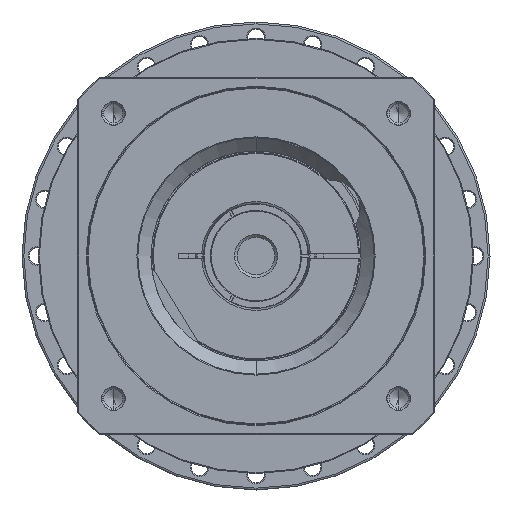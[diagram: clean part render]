
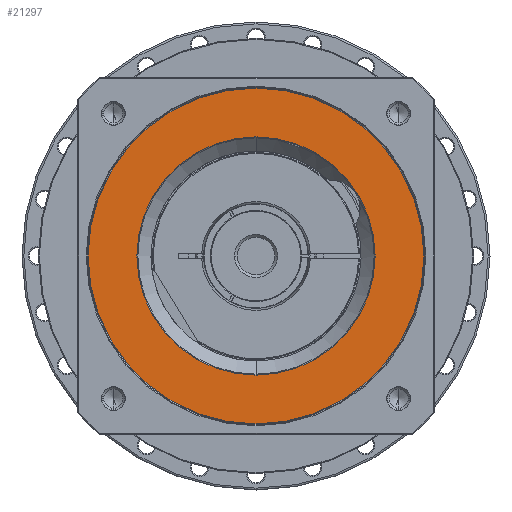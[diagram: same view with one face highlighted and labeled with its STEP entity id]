
A CAD part, left-side view. The second image highlights one B-rep face of the part: STEP entity #21297.
In plain terms, the highlighted planar face has unit normal (-1, 0, 0) as drawn and (0, 0, 1) by its records, which use the part's own axes.
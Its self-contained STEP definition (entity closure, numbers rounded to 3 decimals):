
#20151=CARTESIAN_POINT('',(0.,0.,46.));
#20152=DIRECTION('',(0.,0.,-1.));
#20153=DIRECTION('',(0.,-1.,0.));
#20154=AXIS2_PLACEMENT_3D('',#20151,#20152,#20153);
#20156=CARTESIAN_POINT('',(0.,0.,46.));
#20157=DIRECTION('',(0.,0.,-1.));
#20158=DIRECTION('',(0.,1.,0.));
#20159=AXIS2_PLACEMENT_3D('',#20156,#20157,#20158);
#20161=CARTESIAN_POINT('',(0.,0.,
46.));
#20162=DIRECTION('',(0.,0.,-1.));
#20163=DIRECTION('',(1.,0.,0.));
#20164=AXIS2_PLACEMENT_3D('',#20161,#20162,#20163);
#20166=CARTESIAN_POINT('',(0.,0.,
46.));
#20167=DIRECTION('',(0.,0.,-1.));
#20168=DIRECTION('',(-1.,0.,0.));
#20169=AXIS2_PLACEMENT_3D('',#20166,#20167,#20168);
#21033=CARTESIAN_POINT('',(0.,-89.5,46.));
#21034=CARTESIAN_POINT('',(0.,89.5,46.));
#21035=VERTEX_POINT('',#21033);
#21036=VERTEX_POINT('',#21034);
#21069=CARTESIAN_POINT('',(63.5,0.,46.));
#21070=CARTESIAN_POINT('',(-63.5,0.,
46.));
#21071=VERTEX_POINT('',#21069);
#21072=VERTEX_POINT('',#21070);
#21281=CARTESIAN_POINT('',(0.,0.,46.));
#21282=DIRECTION('',(0.,0.,-1.));
#21283=DIRECTION('',(0.,-1.,0.));
#21284=AXIS2_PLACEMENT_3D('',#21281,#21282,#21283);
#21285=PLANE('',#21284);
#21287=ORIENTED_EDGE('',*,*,#21286,.T.);
#21289=ORIENTED_EDGE('',*,*,#21288,.T.);
#21290=EDGE_LOOP('',(#21287,#21289));
#21291=FACE_OUTER_BOUND('',#21290,.F.);
#21292=ORIENTED_EDGE('',*,*,#21271,.F.);
#21294=ORIENTED_EDGE('',*,*,#21293,.F.);
#21295=EDGE_LOOP('',(#21292,#21294));
#21296=FACE_BOUND('',#21295,.F.);
#21297=ADVANCED_FACE('',(#21291,#21296),#21285,.F.);
#20155=CIRCLE('',#20154,89.5);
#20160=CIRCLE('',#20159,89.5);
#20165=CIRCLE('',#20164,63.5);
#20170=CIRCLE('',#20169,63.5);
#21271=EDGE_CURVE('',#21071,#21072,#20165,.T.);
#21286=EDGE_CURVE('',#21035,#21036,#20155,.T.);
#21288=EDGE_CURVE('',#21036,#21035,#20160,.T.);
#21293=EDGE_CURVE('',#21072,#21071,#20170,.T.);
